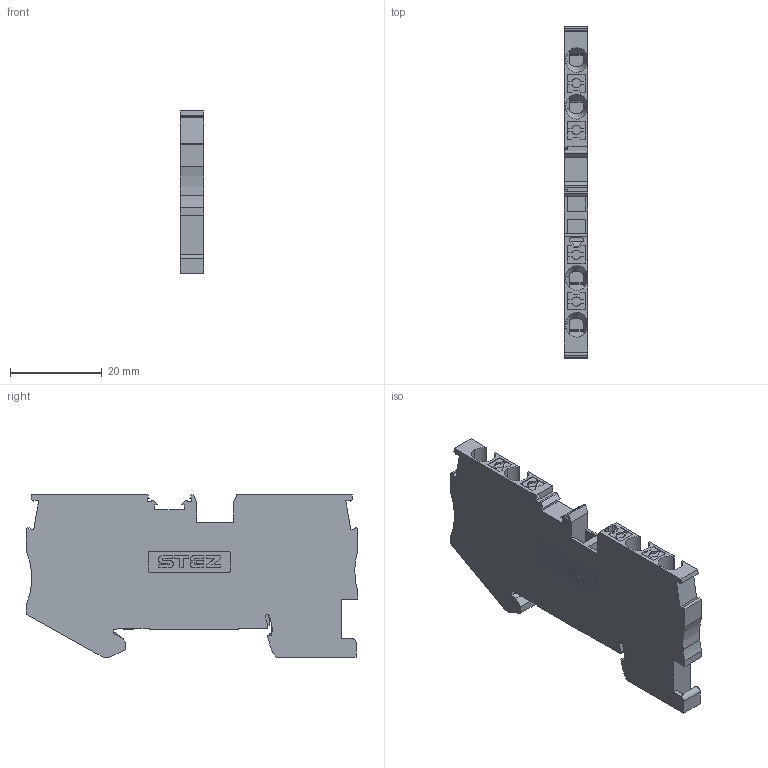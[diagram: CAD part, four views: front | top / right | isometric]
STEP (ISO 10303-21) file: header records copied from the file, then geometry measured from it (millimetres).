
FILE_DESCRIPTION(('TFLEX Exchange Step'),'2;1');
FILE_NAME('14000142_КНБ_2,5-4-PE.stp', '2025-06-24T11:00:23+03:00',('MVarava'),('Unknown organisation'),'TFLEX Exchange 2023.0','T-FLEX CAD','Unknown authorisation');
FILE_SCHEMA( ('AUTOMOTIVE_DESIGN { 1 0 10303 214 1 1 1 1 }') );
Length unit declared in the file: millimetre
Products named in the file (1): Nodes
Bounding box: 5.15 x 72.3 x 35.35 mm (x, y, z)
Volume: 9620.1 mm3; surface area: 6830.8 mm2
Topology: 1 solids, 1 shells, 522 faces, 1514 edges, 1006 vertices
Faces by surface type: plane 288, cylinder 215, torus 8, extrusion 5, cone 4, bspline 2
Entity records: 18328 total; most frequent: CARTESIAN_POINT 4546, ORIENTED_EDGE 3028, DIRECTION 2643, EDGE_CURVE 1514, VERTEX_POINT 1006, VECTOR 889, LINE 884, AXIS2_PLACEMENT_3D 877
